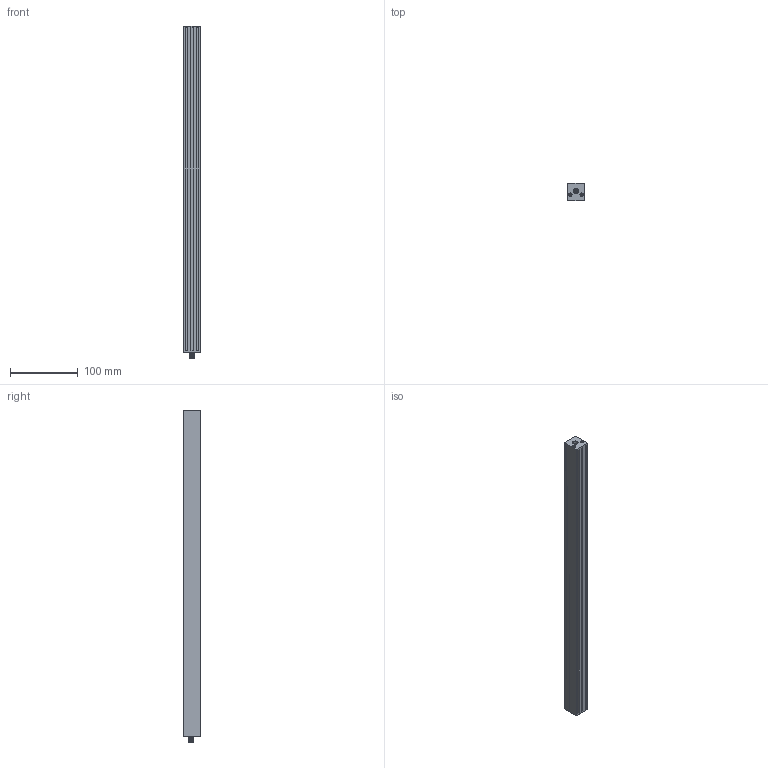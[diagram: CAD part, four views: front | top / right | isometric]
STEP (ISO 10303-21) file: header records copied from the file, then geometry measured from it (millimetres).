
FILE_DESCRIPTION(('STEP AP214'),'1');
FILE_NAME('F:/3D Zeichnungen/3D Modelle/tmp0.STEP','2019-12-10T12:38:57',(' '),(' '),'Spatial InterOp 3D',' ',' ');
FILE_SCHEMA(('automotive_design'));
Length unit declared in the file: millimetre
Products named in the file (1): osen19B4259Bo797
Bounding box: 24 x 25.5 x 488.7 mm (x, y, z)
Volume: 116561 mm3; surface area: 118310.4 mm2
Topology: 1 solids, 10 shells, 324 faces, 872 edges, 547 vertices
Faces by surface type: plane 139, cylinder 98, cone 76, torus 6, sphere 3, bspline 2
Entity records: 14262 total; most frequent: CARTESIAN_POINT 3620, ORIENTED_EDGE 1720, DIRECTION 1600, EDGE_CURVE 860, VERTEX_POINT 547, AXIS2_PLACEMENT_3D 538, LINE 524, VECTOR 524
